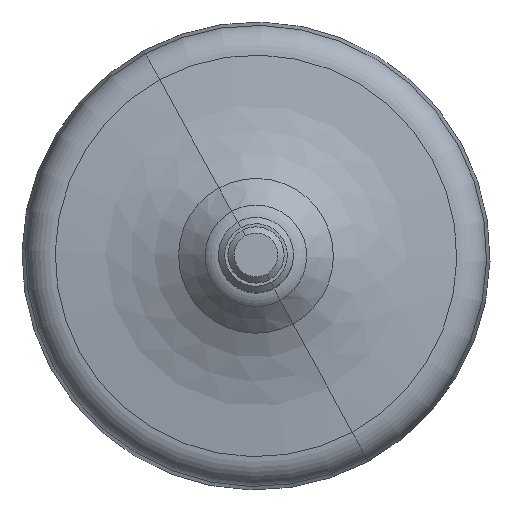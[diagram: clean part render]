
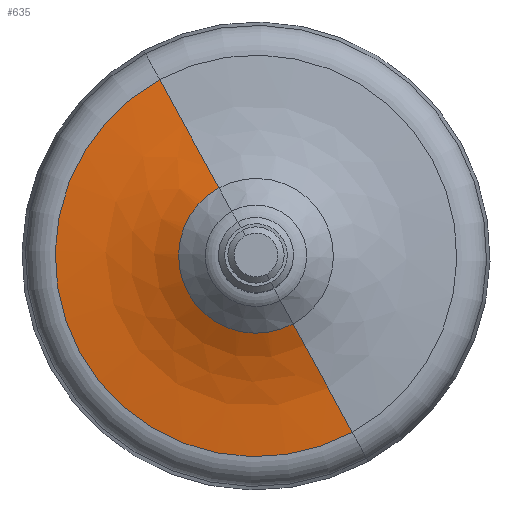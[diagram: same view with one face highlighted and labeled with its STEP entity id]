
A CAD part, top view. The second image highlights one B-rep face of the part: STEP entity #635.
In plain terms, the highlighted face is a revolution surface.
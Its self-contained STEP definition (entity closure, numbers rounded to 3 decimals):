
#363=EDGE_CURVE('',#1006,#1007,#1008,.T.);
#405=EDGE_CURVE('',#1006,#1080,#1081,.F.);
#635=ADVANCED_FACE('',(#1439),#1440,.T.);
#745=EDGE_CURVE('',#1007,#1073,#1582,.F.);
#789=EDGE_CURVE('',#1080,#1073,#1636,.T.);
#1006=VERTEX_POINT('',#1885);
#1007=VERTEX_POINT('',#1886);
#1008=CIRCLE('',#1887,32.172);
#1073=VERTEX_POINT('',#1974);
#1080=VERTEX_POINT('',#1982);
#1081=CIRCLE('',#1983,50.0);
#1439=FACE_OUTER_BOUND('',#2477,.T.);
#1440=SURFACE_OF_REVOLUTION('',#2478,#2479);
#1582=CIRCLE('',#2696,50.0);
#1636=CIRCLE('',#2774,9.0);
#1885=CARTESIAN_POINT('',(-15.424,28.233,57.704));
#1886=CARTESIAN_POINT('',(15.424,-28.233,57.704));
#1887=AXIS2_PLACEMENT_3D('',#3109,#3110,#3111);
#1974=CARTESIAN_POINT('',(4.315,-7.898,64.309));
#1982=CARTESIAN_POINT('',(-4.315,7.898,64.309));
#1983=AXIS2_PLACEMENT_3D('',#3216,#3217,#3218);
#2477=EDGE_LOOP('',(#3718,#3719,#3720,#3721));
#2478=B_SPLINE_CURVE_WITH_KNOTS('',4,(#3722,#3723,#3724,#3725,#3726),.UNSPECIFIED.,.F.,.F.,(5,5),(-104.591,-80.257),.UNSPECIFIED.);
#2479=AXIS1_PLACEMENT('',#3727,#3728);
#2696=AXIS2_PLACEMENT_3D('',#3945,#3946,#3947);
#2774=AXIS2_PLACEMENT_3D('',#4054,#4055,#4056);
#3109=CARTESIAN_POINT('',(0.0,0.0,57.704));
#3110=DIRECTION('',(0.0,0.0,1.0));
#3111=DIRECTION('',(1.0,0.0,0.0));
#3216=CARTESIAN_POINT('',(-16.247,29.74,107.675));
#3217=DIRECTION('',(0.878,0.479,0.0));
#3218=DIRECTION('',(0.479,-0.878,0.0));
#3718=ORIENTED_EDGE('',*,*,#745,.T.);
#3719=ORIENTED_EDGE('',*,*,#789,.F.);
#3720=ORIENTED_EDGE('',*,*,#405,.F.);
#3721=ORIENTED_EDGE('',*,*,#363,.T.);
#3722=CARTESIAN_POINT('',(-4.315,7.898,64.309));
#3723=CARTESIAN_POINT('',(-6.844,12.529,61.281));
#3724=CARTESIAN_POINT('',(-9.61,17.591,59.108));
#3725=CARTESIAN_POINT('',(-12.509,22.898,57.913));
#3726=CARTESIAN_POINT('',(-15.424,28.233,57.704));
#3727=CARTESIAN_POINT('',(0.0,0.0,64.309));
#3728=DIRECTION('',(-0.0,-0.0,-1.0));
#3945=CARTESIAN_POINT('',(16.247,-29.74,107.675));
#3946=DIRECTION('',(-0.878,-0.479,0.0));
#3947=DIRECTION('',(0.479,-0.878,0.0));
#4054=CARTESIAN_POINT('',(0.0,0.0,64.309));
#4055=DIRECTION('',(0.0,0.0,1.0));
#4056=DIRECTION('',(1.0,0.0,0.0));
